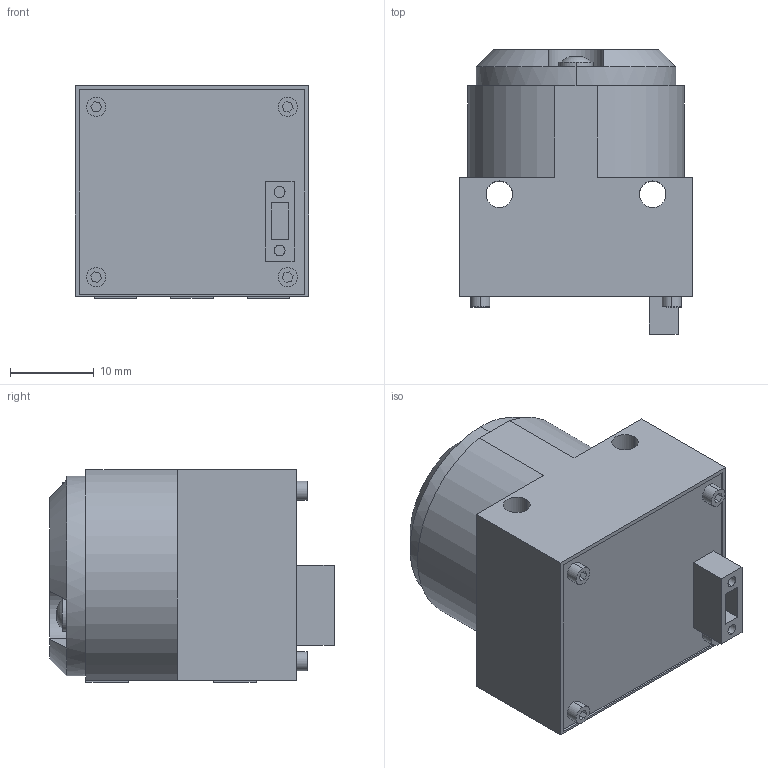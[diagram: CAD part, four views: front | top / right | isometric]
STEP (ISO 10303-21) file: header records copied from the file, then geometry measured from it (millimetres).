
FILE_DESCRIPTION (( 'STEP AP214' ), '1' );
FILE_NAME ('AC200.STEP', '2011-03-17T20:36:51', ( 'JKnirck' ), ( '' ), 'SwSTEP 2.0', 'SolidWorks 2010', '' );
FILE_SCHEMA (( 'AUTOMOTIVE_DESIGN' ));
Length unit declared in the file: inch
Products named in the file (1): AC200
Bounding box: 27.94 x 33.97 x 25.4 mm (x, y, z)
Volume: 16674.1 mm3; surface area: 5120.7 mm2
Topology: 1 solids, 1 shells, 178 faces, 437 edges, 281 vertices
Faces by surface type: plane 108, cylinder 56, cone 10, sphere 3, bspline 1
Entity records: 7538 total; most frequent: CARTESIAN_POINT 1742, DIRECTION 899, ORIENTED_EDGE 850, EDGE_CURVE 425, AXIS2_PLACEMENT_3D 310, LINE 279, VECTOR 279, VERTEX_POINT 278
